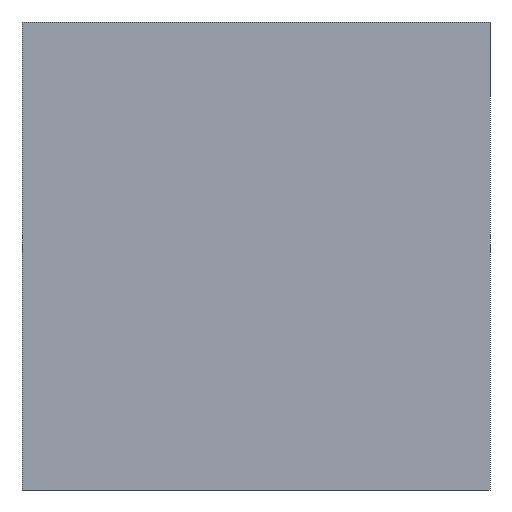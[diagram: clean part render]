
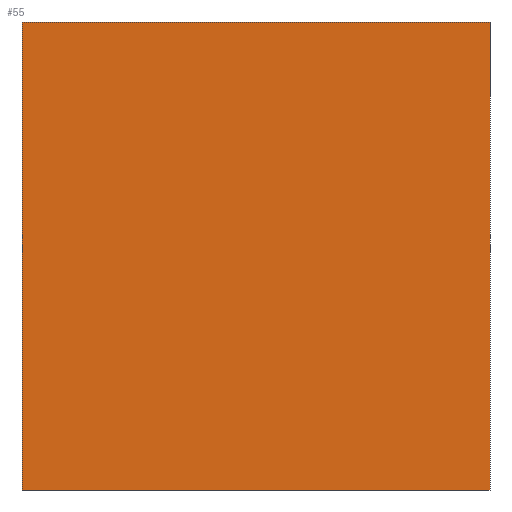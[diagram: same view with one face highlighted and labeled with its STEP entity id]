
A CAD part, front view. The second image highlights one B-rep face of the part: STEP entity #55.
In plain terms, the highlighted planar face has unit normal (0, -1, 0).
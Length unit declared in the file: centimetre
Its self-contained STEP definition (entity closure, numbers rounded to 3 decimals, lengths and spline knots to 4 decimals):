
#55 = ADVANCED_FACE ( 'NONE', ( #575 ), #350, .F. ) ;
#56 = VECTOR ( 'NONE', #853, 100. ) ;
#101 = CARTESIAN_POINT ( 'NONE',  ( 0., 0., 0. ) ) ;
#115 = CARTESIAN_POINT ( 'NONE',  ( 0., 0., 1000. ) ) ;
#175 = EDGE_LOOP ( 'NONE', ( #451, #377, #509, #645 ) ) ;
#182 = VERTEX_POINT ( 'NONE', #556 ) ;
#275 = DIRECTION ( 'NONE',  ( 0., 1., 0. ) ) ;
#296 = CARTESIAN_POINT ( 'NONE',  ( 0., 0., 1000. ) ) ;
#305 = VERTEX_POINT ( 'NONE', #846 ) ;
#313 = LINE ( 'NONE', #814, #536 ) ;
#350 = PLANE ( 'NONE',  #510 ) ;
#363 = EDGE_CURVE ( 'NONE', #907, #305, #960, .T. ) ;
#377 = ORIENTED_EDGE ( 'NONE', *, *, #677, .F. ) ;
#425 = CARTESIAN_POINT ( 'NONE',  ( 0., 0., 1000. ) ) ;
#451 = ORIENTED_EDGE ( 'NONE', *, *, #712, .T. ) ;
#499 = VERTEX_POINT ( 'NONE', #949 ) ;
#509 = ORIENTED_EDGE ( 'NONE', *, *, #363, .F. ) ;
#510 = AXIS2_PLACEMENT_3D ( 'NONE', #115, #275, #870 ) ;
#536 = VECTOR ( 'NONE', #748, 100. ) ;
#556 = CARTESIAN_POINT ( 'NONE',  ( 1000., 0., 0. ) ) ;
#575 = FACE_OUTER_BOUND ( 'NONE', #175, .T. ) ;
#629 = LINE ( 'NONE', #101, #56 ) ;
#642 = CARTESIAN_POINT ( 'NONE',  ( 1000., 0., 1000. ) ) ;
#645 = ORIENTED_EDGE ( 'NONE', *, *, #869, .T. ) ;
#677 = EDGE_CURVE ( 'NONE', #305, #182, #774, .T. ) ;
#712 = EDGE_CURVE ( 'NONE', #499, #182, #629, .T. ) ;
#748 = DIRECTION ( 'NONE',  ( 0., 0., -1. ) ) ;
#774 = LINE ( 'NONE', #642, #943 ) ;
#790 = DIRECTION ( 'NONE',  ( 1., 0., 0. ) ) ;
#814 = CARTESIAN_POINT ( 'NONE',  ( 0., 0., 1000. ) ) ;
#846 = CARTESIAN_POINT ( 'NONE',  ( 1000., 0., 1000. ) ) ;
#853 = DIRECTION ( 'NONE',  ( 1., 0., 0. ) ) ;
#869 = EDGE_CURVE ( 'NONE', #907, #499, #313, .T. ) ;
#870 = DIRECTION ( 'NONE',  ( 0., 0., 1. ) ) ;
#907 = VERTEX_POINT ( 'NONE', #296 ) ;
#931 = VECTOR ( 'NONE', #790, 100. ) ;
#937 = DIRECTION ( 'NONE',  ( 0., 0., -1. ) ) ;
#943 = VECTOR ( 'NONE', #937, 100. ) ;
#949 = CARTESIAN_POINT ( 'NONE',  ( 0., 0., 0. ) ) ;
#960 = LINE ( 'NONE', #425, #931 ) ;
